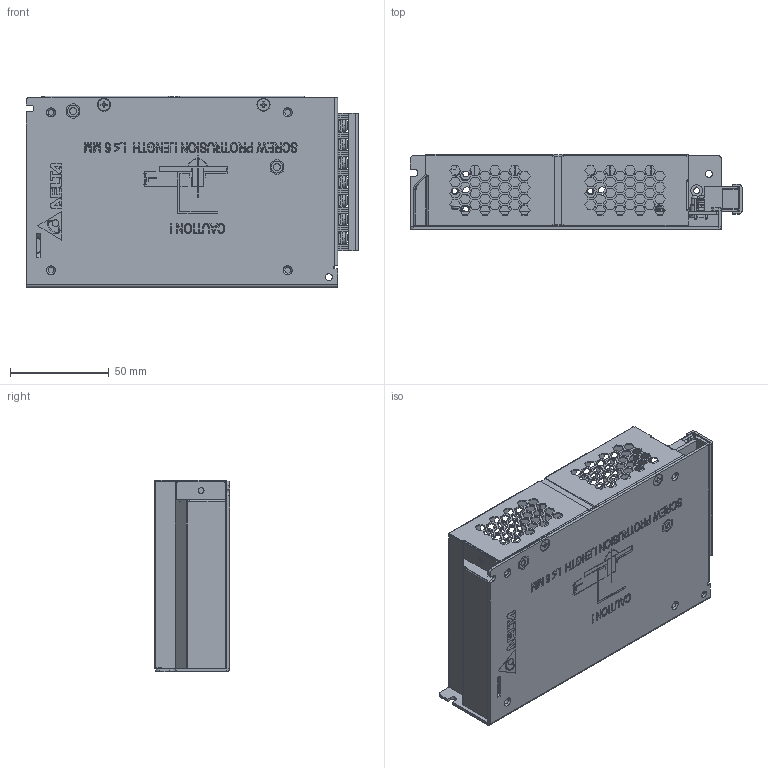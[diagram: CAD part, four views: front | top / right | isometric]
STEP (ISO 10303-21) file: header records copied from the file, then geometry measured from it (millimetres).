
FILE_DESCRIPTION((''),'2;1');
FILE_NAME('PMC-24V100W1AL_ASM','2016-03-01T',('Nut.phor'),(''),'PRO/ENGINEER BY PARAMETRIC TECHNOLOGY CORPORATION, 2010180','PRO/ENGINEER BY PARAMETRIC TECHNOLOGY CORPORATION, 2010180','');
FILE_SCHEMA(('CONFIG_CONTROL_DESIGN','SHAPE_APPEARANCE_LAYERS_GROUPS'));
Products named in the file (29): 330304670103; 330304670103_A_STUD; 330304670103_ASM; 2958033904_PWB; 2958033906_PWB_LAYOUT; 307049907W_A_BT25U101; 307049907W_A_BT24-KO31; 307049907W_A_BT24-KO31-05-M101; 307049907W_A_T24P101_AF0; 307049907W_A_T24P101_AF1; 307049907W_A_T24P101_AF2; 307049907W_A_T24P101_AF3; 307049907W_A_T24P101_AF4; 307049907W_A_T24P101_AF5; 307049907W_A_T24P101_AF6; 307049907W_A_PIN; 307049907W_ASM; 3352010600; 3421043900; EE_VR550; EE_LED350; 3421193900_LED; ASSY_PWB_PMC-24V100W1AL_ASM; 330300560101; 326203860203; 3268095800; 3103301000; 3100000400; PMC-24V100W1AL_ASM
Assembly tree (40 placements, depth 4):
  PMC-24V100W1AL_ASM
    330304670103_ASM
      330304670103
      330304670103_A_STUD  x2
    ASSY_PWB_PMC-24V100W1AL_ASM
      2958033904_PWB
      2958033906_PWB_LAYOUT
      307049907W_ASM
        307049907W_A_BT25U101  x7
        307049907W_A_BT24-KO31
        307049907W_A_BT24-KO31-05-M101
        307049907W_A_T24P101_AF0
        307049907W_A_T24P101_AF1
        307049907W_A_T24P101_AF2
        307049907W_A_T24P101_AF3
        307049907W_A_T24P101_AF4
        307049907W_A_T24P101_AF5
        307049907W_A_T24P101_AF6
        307049907W_A_PIN  x2
      3352010600
      3421043900
      EE_VR550
      EE_LED350
      3421193900_LED
    330300560101
    326203860203
    3268095800
    3103301000  x2
    3100000400  x4
Bounding box: 168.3 x 38.07 x 97.15 mm (x, y, z)
Volume: 79051.9 mm3; surface area: 137202.8 mm2
Topology: 36 solids, 36 shells, 7185 faces, 19868 edges, 12658 vertices
Faces by surface type: plane 5278, cylinder 933, extrusion 379, bspline 377, cone 108, torus 94, sphere 16
Entity records: 267970 total; most frequent: CARTESIAN_POINT 50394, ORIENTED_EDGE 35478, DIRECTION 29915, PRESENTATION_STYLE_ASSIGNMENT 17911, STYLED_ITEM 17765, CURVE_STYLE 17739, EDGE_CURVE 17739, VECTOR 14995
